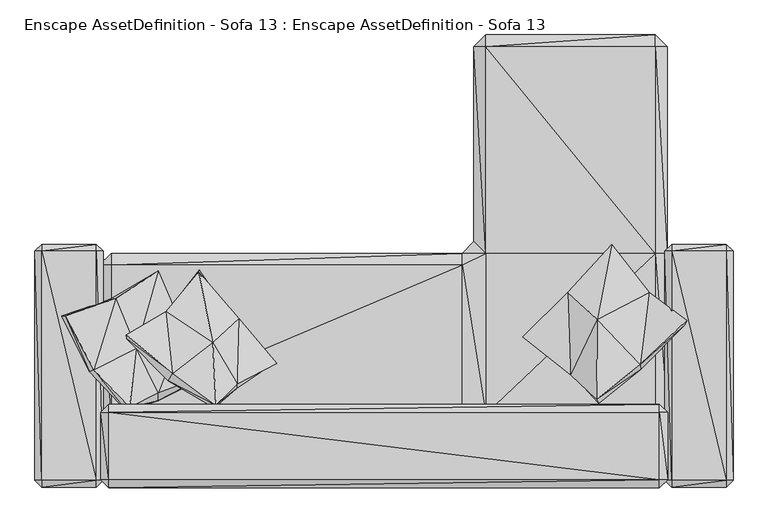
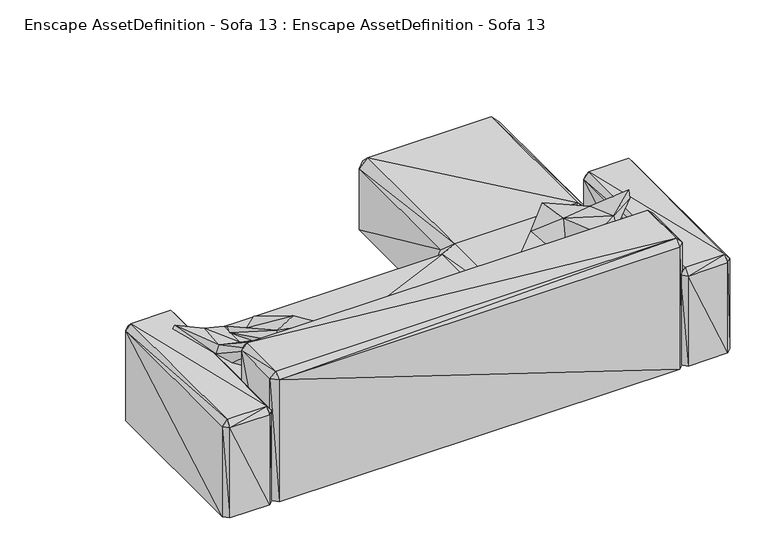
"""IFC4 building model written with IfcOpenShell, lengths in millimetres: geographic element geometry, Enscape AssetDefinition - Sofa 13 : Enscape AssetDefinition - Sofa 13."""

from ifc_helpers import new_model, si_unit, origin, place, context, project, spatial, faceted_brep, source, transform, mapped, element, save


def enscape_assetdefinition_sofa_13_enscape_assetdefinition_sofa_9e4e7f4c(model_context):
    return source(origin(), model_context, "Body", "Brep", [
        faceted_brep([(538.9153957, 210.2950662, 0.0), (592.861414, -516.7351961, 0.0), (-1045.8544493, 210.2950662, 0.0), (-1045.8545685, 210.2950662, 401.5236199), (-1099.8004675, 156.3490778, 0.0), (-1099.8004675, 156.349048, 401.5236199), (-1045.8545685, 156.349048, 455.4696083), (538.9153957, 210.2950662, 401.5236199), (-1099.8004675, -516.7351961, 0.0), (-1099.8004675, -516.7351365, 401.5236795), (-1045.8545685, -516.7351365, 455.4696381), (538.9153957, 156.349048, 455.4696083), (646.8073726, 210.2950215, 455.4696083), (592.861414, 264.2410398, 401.5236199), (538.9153957, -516.7351365, 455.4696381), (646.8073726, -516.7351365, 455.4696381), (1466.3388729, -516.7351365, 401.5236795), (1466.3388729, -516.7351961, 0.0), (1466.3388729, 210.2950662, 0.0), (1412.3928547, -516.7351365, 455.4696381), (1412.3928547, 210.2950215, 455.4696083), (1466.3388729, 210.2950662, 401.5236199), (1412.3928547, 1144.1346407, 455.4696083), (646.8073726, 1144.1346407, 455.4696083), (1466.3388729, 1144.1346407, 401.5236199), (1412.3928547, 1198.0806589, 401.5236199), (646.8073726, 1198.0806589, 401.5236199), (592.861414, 1144.1346407, 401.5236199), (592.861414, 1144.1347599, 0.0), (1412.3929739, 1198.0806589, 0.0), (646.8073726, 1198.0806589, 0.0), (1466.3388729, 1144.1347599, 0.0), (592.861414, 264.2410398, 0.0)], [[[0, 1, 2]], [[3, 0, 2]], [[2, 4, 3]], [[1, 4, 2]], [[5, 6, 3]], [[3, 7, 0]], [[7, 3, 6]], [[4, 5, 3]], [[1, 8, 4]], [[5, 4, 8]], [[9, 5, 8]], [[6, 5, 10]], [[5, 9, 10]], [[10, 11, 6]], [[11, 7, 6]], [[11, 12, 7]], [[12, 13, 7]], [[0, 7, 13]], [[14, 15, 11]], [[10, 14, 11]], [[15, 12, 11]], [[14, 10, 1]], [[10, 9, 1]], [[9, 8, 1]], [[16, 1, 17]], [[18, 17, 1]], [[1, 15, 14]], [[19, 15, 1]], [[16, 19, 1]], [[18, 1, 0]], [[15, 20, 12]], [[15, 19, 20]], [[19, 16, 20]], [[21, 16, 18]], [[16, 17, 18]], [[16, 21, 20]], [[22, 23, 20]], [[23, 12, 20]], [[22, 20, 21]], [[24, 22, 21]], [[24, 21, 18]], [[24, 25, 22]], [[23, 22, 25]], [[23, 26, 27]], [[26, 23, 25]], [[23, 27, 12]], [[27, 13, 12]], [[27, 28, 13]], [[28, 27, 26]], [[26, 29, 30]], [[30, 28, 26]], [[26, 25, 29]], [[25, 24, 29]], [[31, 24, 18]], [[24, 31, 29]], [[29, 31, 18]], [[30, 29, 18]], [[28, 30, 18]], [[28, 18, 32]], [[28, 32, 13]], [[32, 0, 13]], [[32, 18, 0]]]),
        faceted_brep([(-1056.8152666, -814.9197102, 837.2424245), (1431.18155, -814.9197102, 837.2424245), (-1056.8152666, -509.52667, 837.2424245), (-1093.1956768, -509.52667, 800.8620739), (-1056.8152666, -473.1462896, 800.8620739), (1431.18155, -509.52667, 837.2424245), (1431.18155, -473.1462896, 800.8620739), (-1056.8152666, -851.3001204, 800.8620739), (-1093.1956768, -814.9197102, 800.8620739), (-1093.1956768, -814.9197102, 0.0), (-1093.1956768, -509.52667, 0.0), (-1056.8152666, -473.1462896, 0.0), (-1056.8152666, -851.3001204, 0.0), (1431.18155, -851.3001204, 800.8620739), (1431.18155, -851.3001204, 0.0), (1431.18155, -473.1462896, 0.0), (1467.5619602, -509.52667, 0.0), (1467.5619602, -814.9197102, 0.0), (1467.5619602, -814.9197102, 800.8620739), (1467.5619602, -509.52667, 800.8620739)], [[[0, 1, 2]], [[3, 2, 4]], [[5, 6, 2]], [[2, 3, 0]], [[1, 5, 2]], [[6, 4, 2]], [[7, 0, 8]], [[0, 7, 1]], [[3, 8, 0]], [[8, 3, 9]], [[3, 10, 9]], [[10, 3, 4]], [[4, 6, 11]], [[11, 10, 4]], [[11, 9, 10]], [[8, 9, 12]], [[11, 12, 9]], [[7, 8, 12]], [[13, 7, 14]], [[7, 12, 14]], [[7, 13, 1]], [[11, 14, 12]], [[6, 15, 11]], [[11, 15, 14]], [[15, 16, 14]], [[13, 14, 17]], [[16, 17, 14]], [[18, 1, 13]], [[18, 13, 17]], [[1, 18, 5]], [[19, 18, 16]], [[18, 17, 16]], [[18, 19, 5]], [[19, 16, 15]], [[6, 19, 15]], [[6, 5, 19]]]),
        faceted_brep([(1486.1329794, -817.1658516, 630.2672029), (1733.0377102, -817.1658516, 630.2672029), (1486.1329794, 219.6400613, 630.2672029), (1455.2971125, 219.6400613, 591.2774205), (1486.1329794, 250.4757047, 591.2774205), (1733.0377102, 219.6400613, 630.2672029), (1733.0377102, 250.4757047, 591.2774205), (1486.1329794, -848.0014801, 591.2773609), (1455.2971125, -817.1658516, 591.2773609), (1455.2971125, -817.165792, 0.0), (1455.2972317, 219.6400911, -4.01e-05), (1486.1328602, 250.4757345, -4.01e-05), (1486.1329794, -848.0014801, 0.0), (1733.0377102, -848.0014801, 591.2773609), (1733.0377102, -848.0014801, 0.0), (1733.0378294, 250.4757345, -4.01e-05), (1763.8735771, 219.6400613, 591.2774205), (1763.8734579, 219.6400911, -4.01e-05), (1763.8735771, -817.165792, 0.0), (1763.8735771, -817.1658516, 591.2773609)], [[[0, 1, 2]], [[3, 2, 4]], [[5, 6, 2]], [[2, 3, 0]], [[1, 5, 2]], [[6, 4, 2]], [[7, 0, 8]], [[0, 7, 1]], [[3, 8, 0]], [[8, 3, 9]], [[3, 10, 9]], [[10, 3, 4]], [[4, 6, 11]], [[11, 10, 4]], [[9, 10, 11]], [[8, 9, 12]], [[11, 12, 9]], [[7, 8, 12]], [[13, 7, 14]], [[7, 12, 14]], [[7, 13, 1]], [[15, 14, 12]], [[11, 15, 12]], [[6, 15, 11]], [[6, 16, 15]], [[16, 17, 15]], [[15, 17, 18]], [[18, 14, 15]], [[13, 14, 18]], [[19, 1, 13]], [[19, 13, 18]], [[1, 19, 5]], [[16, 19, 17]], [[19, 18, 17]], [[19, 16, 5]], [[6, 5, 16]]]),
        faceted_brep([(-1360.3187799, -817.1658516, 627.5556087), (-1113.4694815, -817.1658516, 627.5556087), (-1360.3187799, 219.6400613, 627.5556087), (-1391.1542892, 219.6400613, 591.2774205), (-1360.3187799, 250.4757047, 591.2774205), (-1113.4696007, 219.6400613, 627.5556087), (-1113.4696007, 250.4757047, 591.2774205), (-1360.3187799, -848.0014801, 591.2773609), (-1391.1542892, -817.1658516, 591.2773609), (-1391.1542892, -817.165792, 0.0), (-1391.1542892, 219.6400911, -4.01e-05), (-1360.3187799, 250.4757345, -4.01e-05), (-1360.3187799, -848.0014801, 0.0), (-1113.4694815, -848.0014801, 591.2773609), (-1113.4694815, -848.0014801, 0.0), (-1113.4696007, 250.4757345, -4.01e-05), (-1082.6339722, 219.6400613, 591.2774205), (-1082.6339722, 219.6400911, -4.01e-05), (-1082.633853, -817.165792, 0.0), (-1082.633853, -817.1658516, 591.2773609)], [[[0, 1, 2]], [[3, 2, 4]], [[5, 6, 2]], [[2, 3, 0]], [[1, 5, 2]], [[6, 4, 2]], [[7, 0, 8]], [[0, 7, 1]], [[3, 8, 0]], [[8, 3, 9]], [[3, 10, 9]], [[10, 3, 4]], [[4, 6, 11]], [[11, 10, 4]], [[9, 10, 11]], [[8, 9, 12]], [[11, 12, 9]], [[7, 8, 12]], [[13, 7, 14]], [[7, 12, 14]], [[7, 13, 1]], [[15, 14, 12]], [[11, 15, 12]], [[6, 15, 11]], [[6, 16, 15]], [[16, 17, 15]], [[15, 17, 18]], [[18, 14, 15]], [[13, 14, 18]], [[19, 1, 13]], [[19, 13, 18]], [[1, 19, 5]], [[16, 19, 17]], [[19, 18, 17]], [[19, 16, 5]], [[6, 5, 16]]]),
        faceted_brep([(1029.0243626, 29.8024304, 483.41313), (1044.0189838, -343.3113992, 481.5393984), (831.617415, -179.1760176, 458.9592516), (812.9630685, -168.5366929, 504.5155287), (1216.6172266, 195.9969103, 470.9780216), (1182.2946072, -211.3989741, 449.803412), (1017.5540447, 33.2961529, 515.4485106), (1029.7247171, -339.4550085, 530.7351947), (1149.3649483, -89.1949162, 628.0730963), (1215.1340246, 250.2722144, 500.506103), (1384.3284845, 33.4202014, 551.4591932), (1391.3245201, 10.6507987, 512.8642917), (1344.7964191, -293.2979465, 698.7951398), (1146.8777657, -450.5241513, 757.6041222), (1155.7301283, -467.8948522, 728.369832), (1345.6258774, -315.7177866, 635.0291371), (1554.2641878, -93.558684, 676.3745546), (1546.1344719, -114.6855131, 635.913372)], [[[0, 1, 2]], [[3, 0, 2]], [[3, 2, 1]], [[0, 4, 5]], [[6, 4, 0]], [[0, 5, 1]], [[3, 6, 0]], [[7, 6, 3]], [[7, 3, 1]], [[8, 9, 6]], [[7, 8, 6]], [[6, 9, 4]], [[9, 10, 4]], [[10, 11, 4]], [[4, 11, 5]], [[8, 10, 9]], [[8, 12, 10]], [[8, 13, 12]], [[8, 7, 13]], [[13, 7, 1]], [[13, 1, 14]], [[12, 13, 15]], [[13, 14, 15]], [[16, 12, 17]], [[12, 15, 17]], [[12, 16, 10]], [[10, 16, 11]], [[16, 17, 11]], [[5, 11, 15]], [[11, 17, 15]], [[5, 15, 14]], [[5, 14, 1]]]),
        faceted_brep([(-489.5100296, -98.0647355, 466.0593867), (-809.62497, -73.0517432, 531.7950845), (-648.4156251, 135.2146417, 456.7983449), (-649.93155, 126.1473745, 485.5654836), (-689.2284155, -259.5715821, 502.8218627), (-975.2330184, -176.1193573, 672.0746756), (-797.8057861, -51.8609919, 568.1459904), (-317.0543611, -289.9468541, 461.8382454), (-469.8697627, -84.3092203, 492.905736), (-588.2120728, -192.4182922, 658.1655741), (-978.5243273, -159.7708911, 706.8073153), (-768.0404782, -332.0067227, 711.3274932), (-573.2844472, -477.9966176, 777.4908543), (-477.8544307, -379.9948394, 612.0977402), (-298.3971238, -288.3327901, 480.3104699), (-478.1075716, -401.809603, 582.8324556), (-788.6245847, -367.9224551, 667.9136157), (-581.1414123, -488.6626005, 758.2248449)], [[[0, 1, 2]], [[3, 0, 2]], [[3, 2, 1]], [[4, 5, 1]], [[6, 3, 1]], [[0, 4, 1]], [[6, 1, 5]], [[0, 7, 4]], [[8, 7, 0]], [[3, 8, 0]], [[6, 9, 3]], [[9, 8, 3]], [[10, 6, 5]], [[9, 6, 11]], [[6, 10, 11]], [[9, 12, 13]], [[9, 13, 8]], [[9, 11, 12]], [[13, 14, 8]], [[8, 14, 7]], [[14, 13, 7]], [[13, 12, 15]], [[13, 15, 7]], [[7, 15, 4]], [[4, 15, 16]], [[12, 17, 15]], [[15, 17, 16]], [[12, 16, 17]], [[12, 11, 16]], [[11, 5, 16]], [[11, 10, 5]], [[4, 16, 5]]]),
        faceted_brep([(-1052.8693199, 0.8388941, 554.3547869), (-1144.4805861, -323.0032325, 684.8793626), (-1269.2371607, -73.3400881, 739.6253347), (-1254.5479536, -72.7482513, 755.9842467), (-990.4106259, -232.0886105, 515.4781938), (-976.4419198, -504.4547915, 760.0746751), (-1124.2471933, -317.099452, 730.5901647), (-1026.8193483, 5.1822262, 609.6729636), (-849.6158719, 92.4273729, 438.2195473), (-832.7165842, 129.9442798, 478.574425), (-732.5837612, -138.277337, 488.1189764), (-835.6022239, -457.4834406, 518.4227228), (-962.7733827, -487.5564277, 800.7973433), (-934.2169762, -219.5728719, 621.5667129), (-721.7938304, -134.3061477, 519.110024), (-623.9140034, -350.9082496, 470.3443944), (-597.4360704, -334.1817856, 505.7978034), (-834.6412778, -422.1180379, 569.3130493)], [[[0, 1, 2]], [[3, 0, 2]], [[3, 2, 1]], [[4, 5, 1]], [[6, 3, 1]], [[0, 4, 1]], [[6, 1, 5]], [[6, 7, 3]], [[3, 7, 0]], [[0, 8, 4]], [[7, 9, 0]], [[9, 8, 0]], [[4, 10, 11]], [[4, 11, 5]], [[8, 10, 4]], [[12, 6, 5]], [[12, 5, 11]], [[6, 13, 7]], [[13, 6, 12]], [[13, 9, 7]], [[9, 14, 8]], [[13, 14, 9]], [[14, 10, 8]], [[14, 15, 10]], [[10, 15, 11]], [[16, 11, 15]], [[17, 12, 11]], [[16, 17, 11]], [[13, 12, 17]], [[13, 17, 14]], [[17, 16, 14]], [[14, 16, 15]]]),
    ])


if __name__ == "__main__":
    model = new_model("IFC4")
    model_context = context("Model", 3, world=origin())
    ifc_project = project(units=[si_unit("LENGTHUNIT", "METRE", prefix="MILLI")], contexts=[model_context])
    site = spatial("IfcSite", under=ifc_project)
    building = spatial("IfcBuilding", under=site)
    placement = place(None, origin())
    enscape_assetdefinition_sofa_13_enscape_assetdefinition_sofa_shape = enscape_assetdefinition_sofa_13_enscape_assetdefinition_sofa_9e4e7f4c(model_context)
    element("IfcGeographicElement", 1, ObjectType="Enscape AssetDefinition - Sofa 13 : Enscape AssetDefinition - Sofa 13", at=placement, inside=building, context=model_context, shape_type="MappedRepresentation", body=[
        mapped(enscape_assetdefinition_sofa_13_enscape_assetdefinition_sofa_shape, transform((0.0, 0.0, 0.0), x_axis=(1.0, 0.0, 0.0), y_axis=(0.0, 1.0, 0.0), z_axis=(0.0, 0.0, 1.0))),
    ])
    save(model, "model.ifc")
